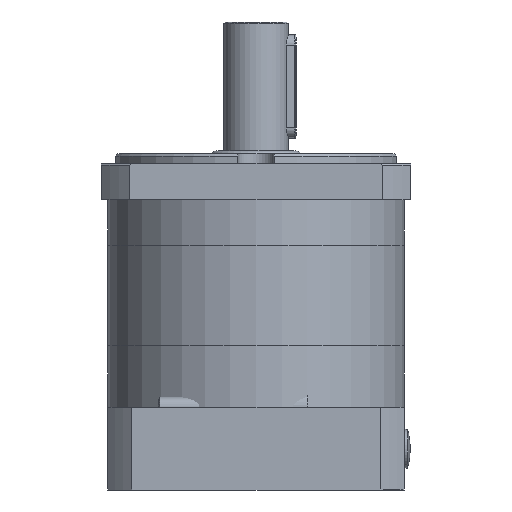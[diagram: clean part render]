
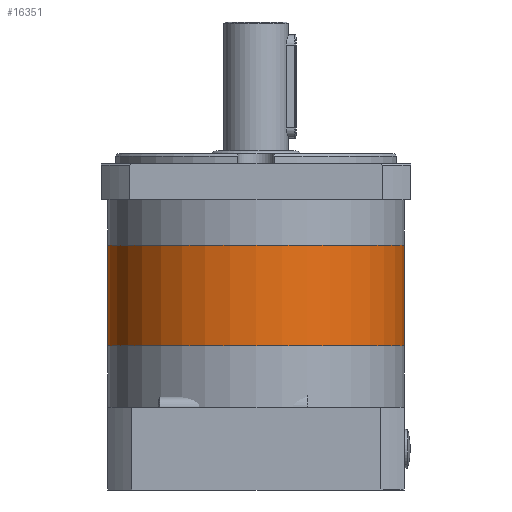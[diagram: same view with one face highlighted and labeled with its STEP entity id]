
A CAD part, front view. The second image highlights one B-rep face of the part: STEP entity #16351.
In plain terms, the highlighted cylindrical face has radius 57.5 mm (diameter 115 mm), a partial arc.
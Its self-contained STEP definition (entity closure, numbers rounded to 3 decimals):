
#242 = VERTEX_POINT ( 'NONE', #2276 ) ;
#1288 = LINE ( 'NONE', #17132, #18764 ) ;
#1328 = VERTEX_POINT ( 'NONE', #24540 ) ;
#2276 = CARTESIAN_POINT ( 'NONE',  ( 46.388, -1.706, 69.982 ) ) ;
#5012 = EDGE_CURVE ( 'NONE', #14066, #1328, #27814, .T. ) ;
#6293 = EDGE_CURVE ( 'NONE', #23577, #14066, #1288, .T. ) ;
#7628 = EDGE_CURVE ( 'NONE', #23577, #242, #12689, .T. ) ;
#10548 = DIRECTION ( 'NONE',  ( 1., 0., 0. ) ) ;
#11235 = CARTESIAN_POINT ( 'NONE',  ( 161.388, -1.706, 69.982 ) ) ;
#12374 = CARTESIAN_POINT ( 'NONE',  ( 103.888, -1.706, 69.982 ) ) ;
#12689 = CIRCLE ( 'NONE', #33105, 57.5 ) ;
#14066 = VERTEX_POINT ( 'NONE', #14632 ) ;
#14499 = ORIENTED_EDGE ( 'NONE', *, *, #6293, .F. ) ;
#14632 = CARTESIAN_POINT ( 'NONE',  ( 161.388, -1.706, 30.982 ) ) ;
#15122 = DIRECTION ( 'NONE',  ( 1., 0., 0. ) ) ;
#15226 = DIRECTION ( 'NONE',  ( 0., 0., -1. ) ) ;
#15245 = CARTESIAN_POINT ( 'NONE',  ( 46.388, -1.706, 28.058 ) ) ;
#15852 = AXIS2_PLACEMENT_3D ( 'NONE', #25290, #25635, #33400 ) ;
#16014 = VECTOR ( 'NONE', #28773, 1000. ) ;
#16351 = ADVANCED_FACE ( 'NONE', ( #28908 ), #32297, .T. ) ;
#17132 = CARTESIAN_POINT ( 'NONE',  ( 161.388, -1.706, 28.058 ) ) ;
#18333 = EDGE_CURVE ( 'NONE', #242, #1328, #33956, .T. ) ;
#18758 = DIRECTION ( 'NONE',  ( 0., 0., -1. ) ) ;
#18764 = VECTOR ( 'NONE', #30008, 1000. ) ;
#20214 = AXIS2_PLACEMENT_3D ( 'NONE', #26741, #18758, #10548 ) ;
#23577 = VERTEX_POINT ( 'NONE', #11235 ) ;
#24540 = CARTESIAN_POINT ( 'NONE',  ( 46.388, -1.706, 30.982 ) ) ;
#25290 = CARTESIAN_POINT ( 'NONE',  ( 103.888, -1.706, 30.982 ) ) ;
#25635 = DIRECTION ( 'NONE',  ( 0., 0., -1. ) ) ;
#26008 = ORIENTED_EDGE ( 'NONE', *, *, #5012, .F. ) ;
#26741 = CARTESIAN_POINT ( 'NONE',  ( 103.888, -1.706, 28.058 ) ) ;
#27814 = CIRCLE ( 'NONE', #15852, 57.5 ) ;
#28773 = DIRECTION ( 'NONE',  ( 0., 0., -1. ) ) ;
#28908 = FACE_OUTER_BOUND ( 'NONE', #30968, .T. ) ;
#29033 = ORIENTED_EDGE ( 'NONE', *, *, #18333, .T. ) ;
#30008 = DIRECTION ( 'NONE',  ( 0., 0., -1. ) ) ;
#30968 = EDGE_LOOP ( 'NONE', ( #31994, #29033, #26008, #14499 ) ) ;
#31994 = ORIENTED_EDGE ( 'NONE', *, *, #7628, .T. ) ;
#32297 = CYLINDRICAL_SURFACE ( 'NONE', #20214, 57.5 ) ;
#33105 = AXIS2_PLACEMENT_3D ( 'NONE', #12374, #15226, #15122 ) ;
#33400 = DIRECTION ( 'NONE',  ( 1., 0., 0. ) ) ;
#33956 = LINE ( 'NONE', #15245, #16014 ) ;
